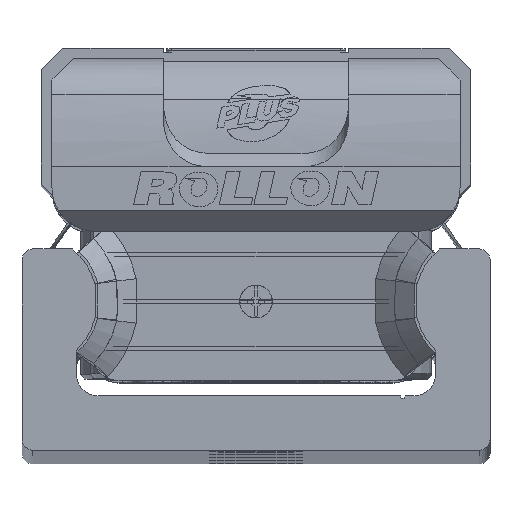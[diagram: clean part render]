
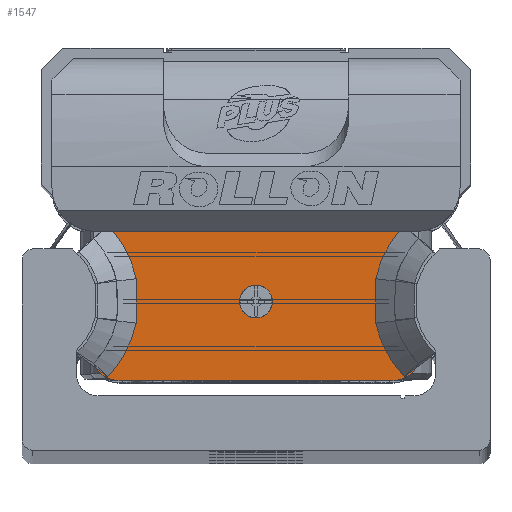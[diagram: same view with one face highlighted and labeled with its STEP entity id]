
A CAD part, top view. The second image highlights one B-rep face of the part: STEP entity #1547.
In plain terms, the highlighted planar face has unit normal (0, 0, 1) as drawn and (0, 0, -1) by its records, which use the part's own axes.
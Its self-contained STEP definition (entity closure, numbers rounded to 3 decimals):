
#1547 = ADVANCED_FACE( '', ( #3399, #3400 ), #3401, .F. );
#3399 = FACE_BOUND( '', #5663, .T. );
#3400 = FACE_OUTER_BOUND( '', #5664, .T. );
#3401 = PLANE( '', #5665 );
#5663 = EDGE_LOOP( '', ( #9998 ) );
#5664 = EDGE_LOOP( '', ( #9999, #10000, #10001, #10002, #10003, #10004, #10005, #10006, #10007, #10008, #10009, #10010 ) );
#5665 = AXIS2_PLACEMENT_3D( '', #10011, #10012, #10013 );
#9998 = ORIENTED_EDGE( '', *, *, #12818, .T. );
#9999 = ORIENTED_EDGE( '', *, *, #14033, .T. );
#10000 = ORIENTED_EDGE( '', *, *, #14034, .F. );
#10001 = ORIENTED_EDGE( '', *, *, #14035, .T. );
#10002 = ORIENTED_EDGE( '', *, *, #14036, .F. );
#10003 = ORIENTED_EDGE( '', *, *, #14037, .T. );
#10004 = ORIENTED_EDGE( '', *, *, #13990, .T. );
#10005 = ORIENTED_EDGE( '', *, *, #13273, .T. );
#10006 = ORIENTED_EDGE( '', *, *, #13387, .T. );
#10007 = ORIENTED_EDGE( '', *, *, #12507, .T. );
#10008 = ORIENTED_EDGE( '', *, *, #14038, .T. );
#10009 = ORIENTED_EDGE( '', *, *, #14039, .T. );
#10010 = ORIENTED_EDGE( '', *, *, #14040, .T. );
#10011 = CARTESIAN_POINT( '', ( 14.9, 7.35, -13.25 ) );
#10012 = DIRECTION( '', ( 0., 0., 1. ) );
#10013 = DIRECTION( '', ( 1., 0., 0. ) );
#12507 = EDGE_CURVE( '', #14859, #14857, #14860, .T. );
#12818 = EDGE_CURVE( '', #15411, #15411, #15412, .T. );
#13273 = EDGE_CURVE( '', #16136, #16134, #16137, .T. );
#13387 = EDGE_CURVE( '', #16134, #14859, #16307, .T. );
#13990 = EDGE_CURVE( '', #17185, #16136, #17186, .T. );
#14033 = EDGE_CURVE( '', #17241, #15381, #17242, .T. );
#14034 = EDGE_CURVE( '', #17243, #15381, #17244, .T. );
#14035 = EDGE_CURVE( '', #17243, #17245, #17246, .T. );
#14036 = EDGE_CURVE( '', #15304, #17245, #17247, .T. );
#14037 = EDGE_CURVE( '', #15304, #17185, #17248, .T. );
#14038 = EDGE_CURVE( '', #14857, #17249, #17250, .T. );
#14039 = EDGE_CURVE( '', #17249, #17251, #17252, .T. );
#14040 = EDGE_CURVE( '', #17251, #17241, #17253, .T. );
#14857 = VERTEX_POINT( '', #18252 );
#14859 = VERTEX_POINT( '', #18257 );
#14860 = LINE( '', #18258, #18259 );
#15304 = VERTEX_POINT( '', #18886 );
#15381 = VERTEX_POINT( '', #19020 );
#15411 = VERTEX_POINT( '', #19065 );
#15412 = CIRCLE( '', #19066, 1.5 );
#16134 = VERTEX_POINT( '', #20048 );
#16136 = VERTEX_POINT( '', #20051 );
#16137 = B_SPLINE_CURVE_WITH_KNOTS( '', 2, ( #20052, #20053, #20054 ), .UNSPECIFIED., .F., .F., ( 3, 3 ), ( 0., 1. ), .UNSPECIFIED. );
#16307 = B_SPLINE_CURVE_WITH_KNOTS( '', 2, ( #20313, #20314, #20315, #20316, #20317 ), .UNSPECIFIED., .F., .F., ( 3, 2, 3 ), ( 0., 0.5, 0.868 ), .UNSPECIFIED. );
#17185 = VERTEX_POINT( '', #21651 );
#17186 = B_SPLINE_CURVE_WITH_KNOTS( '', 2, ( #21652, #21653, #21654, #21655, #21656 ), .UNSPECIFIED., .F., .F., ( 3, 2, 3 ), ( 0., 0.5, 1. ), .UNSPECIFIED. );
#17241 = VERTEX_POINT( '', #21727 );
#17242 = B_SPLINE_CURVE_WITH_KNOTS( '', 1, ( #21728, #21729 ), .UNSPECIFIED., .F., .F., ( 2, 2 ), ( 0., 1. ), .UNSPECIFIED. );
#17243 = VERTEX_POINT( '', #21730 );
#17244 = CIRCLE( '', #21731, 2.5 );
#17245 = VERTEX_POINT( '', #21732 );
#17246 = LINE( '', #21733, #21734 );
#17247 = CIRCLE( '', #21735, 2.5 );
#17248 = B_SPLINE_CURVE_WITH_KNOTS( '', 1, ( #21736, #21737 ), .UNSPECIFIED., .F., .F., ( 2, 2 ), ( 0., 1. ), .UNSPECIFIED. );
#17249 = VERTEX_POINT( '', #21738 );
#17250 = B_SPLINE_CURVE_WITH_KNOTS( '', 2, ( #21739, #21740, #21741, #21742, #21743 ), .UNSPECIFIED., .F., .F., ( 3, 2, 3 ), ( 0.133, 0.5, 1. ), .UNSPECIFIED. );
#17251 = VERTEX_POINT( '', #21744 );
#17252 = B_SPLINE_CURVE_WITH_KNOTS( '', 2, ( #21745, #21746, #21747 ), .UNSPECIFIED., .F., .F., ( 3, 3 ), ( 0., 1. ), .UNSPECIFIED. );
#17253 = B_SPLINE_CURVE_WITH_KNOTS( '', 2, ( #21748, #21749, #21750, #21751, #21752 ), .UNSPECIFIED., .F., .F., ( 3, 2, 3 ), ( 0., 0.5, 1. ), .UNSPECIFIED. );
#18252 = CARTESIAN_POINT( '', ( 13.12, 6.4, -13.25 ) );
#18257 = CARTESIAN_POINT( '', ( -13.119, 6.4, -13.25 ) );
#18258 = CARTESIAN_POINT( '', ( 14.9, 6.4, -13.25 ) );
#18259 = VECTOR( '', #22749, 1000. );
#18886 = CARTESIAN_POINT( '', ( -14.904, -5.718, -13.25 ) );
#19020 = CARTESIAN_POINT( '', ( 14.906, -5.717, -13.25 ) );
#19065 = CARTESIAN_POINT( '', ( 1.5, -0.05, -13.25 ) );
#19066 = AXIS2_PLACEMENT_3D( '', #23154, #23155, #23156 );
#20048 = CARTESIAN_POINT( '', ( -11.012, 2.045, -13.25 ) );
#20051 = CARTESIAN_POINT( '', ( -11.012, -2.045, -13.25 ) );
#20052 = CARTESIAN_POINT( '', ( -11.012, -2.045, -13.25 ) );
#20053 = CARTESIAN_POINT( '', ( -10.888, 0., -13.25 ) );
#20054 = CARTESIAN_POINT( '', ( -11.012, 2.045, -13.25 ) );
#20313 = CARTESIAN_POINT( '', ( -11.012, 2.045, -13.25 ) );
#20314 = CARTESIAN_POINT( '', ( -11.302, 3.432, -13.25 ) );
#20315 = CARTESIAN_POINT( '', ( -11.967, 4.685, -13.25 ) );
#20316 = CARTESIAN_POINT( '', ( -12.456, 5.606, -13.25 ) );
#20317 = CARTESIAN_POINT( '', ( -13.119, 6.4, -13.25 ) );
#21651 = CARTESIAN_POINT( '', ( -13.628, -6.965, -13.25 ) );
#21652 = CARTESIAN_POINT( '', ( -13.628, -6.965, -13.25 ) );
#21653 = CARTESIAN_POINT( '', ( -12.638, -5.946, -13.25 ) );
#21654 = CARTESIAN_POINT( '', ( -11.97, -4.691, -13.25 ) );
#21655 = CARTESIAN_POINT( '', ( -11.303, -3.437, -13.25 ) );
#21656 = CARTESIAN_POINT( '', ( -11.012, -2.045, -13.25 ) );
#21727 = CARTESIAN_POINT( '', ( 13.628, -6.965, -13.25 ) );
#21728 = CARTESIAN_POINT( '', ( 13.628, -6.965, -13.25 ) );
#21729 = CARTESIAN_POINT( '', ( 14.9, -5.728, -13.25 ) );
#21730 = CARTESIAN_POINT( '', ( 12.58, -7.3, -13.25 ) );
#21731 = AXIS2_PLACEMENT_3D( '', #24781, #24782, #24783 );
#21732 = CARTESIAN_POINT( '', ( -12.58, -7.3, -13.25 ) );
#21733 = CARTESIAN_POINT( '', ( 12.58, -7.3, -13.25 ) );
#21734 = VECTOR( '', #24784, 1000. );
#21735 = AXIS2_PLACEMENT_3D( '', #24785, #24786, #24787 );
#21736 = CARTESIAN_POINT( '', ( -14.915, -5.713, -13.25 ) );
#21737 = CARTESIAN_POINT( '', ( -13.628, -6.965, -13.25 ) );
#21738 = CARTESIAN_POINT( '', ( 11.012, 2.045, -13.25 ) );
#21739 = CARTESIAN_POINT( '', ( 13.119, 6.4, -13.25 ) );
#21740 = CARTESIAN_POINT( '', ( 12.459, 5.608, -13.25 ) );
#21741 = CARTESIAN_POINT( '', ( 11.968, 4.684, -13.25 ) );
#21742 = CARTESIAN_POINT( '', ( 11.301, 3.427, -13.25 ) );
#21743 = CARTESIAN_POINT( '', ( 11.012, 2.045, -13.25 ) );
#21744 = CARTESIAN_POINT( '', ( 11.012, -2.045, -13.25 ) );
#21745 = CARTESIAN_POINT( '', ( 11.012, 2.045, -13.25 ) );
#21746 = CARTESIAN_POINT( '', ( 10.888, 0., -13.25 ) );
#21747 = CARTESIAN_POINT( '', ( 11.012, -2.045, -13.25 ) );
#21748 = CARTESIAN_POINT( '', ( 11.012, -2.045, -13.25 ) );
#21749 = CARTESIAN_POINT( '', ( 11.301, -3.43, -13.25 ) );
#21750 = CARTESIAN_POINT( '', ( 11.972, -4.69, -13.25 ) );
#21751 = CARTESIAN_POINT( '', ( 12.642, -5.95, -13.25 ) );
#21752 = CARTESIAN_POINT( '', ( 13.628, -6.965, -13.25 ) );
#22749 = DIRECTION( '', ( 1., 0., 0. ) );
#23154 = CARTESIAN_POINT( '', ( 0., -0.05, -13.25 ) );
#23155 = DIRECTION( '', ( 0., 0., 1. ) );
#23156 = DIRECTION( '', ( 1., 0., 0. ) );
#24781 = CARTESIAN_POINT( '', ( 12.58, -4.8, -13.25 ) );
#24782 = DIRECTION( '', ( 0., 0., 1. ) );
#24783 = DIRECTION( '', ( 1., 0., 0. ) );
#24784 = DIRECTION( '', ( -1., 0., 0. ) );
#24785 = CARTESIAN_POINT( '', ( -12.58, -4.8, -13.25 ) );
#24786 = DIRECTION( '', ( 0., 0., 1. ) );
#24787 = DIRECTION( '', ( 1., 0., 0. ) );
